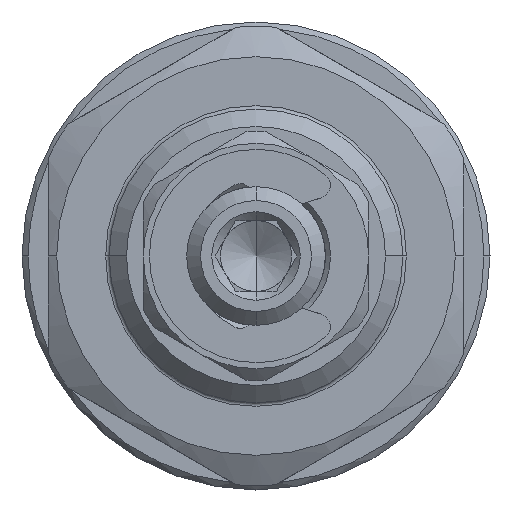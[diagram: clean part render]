
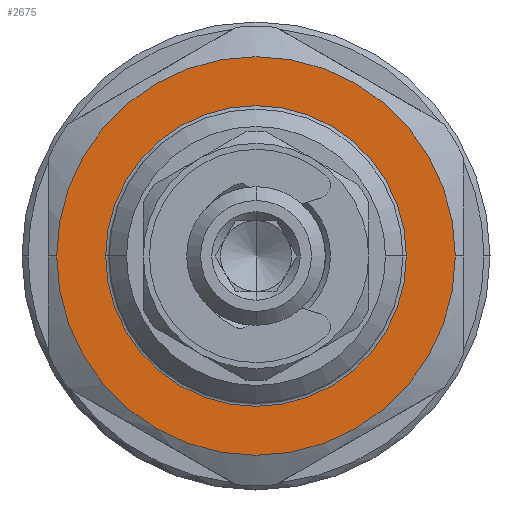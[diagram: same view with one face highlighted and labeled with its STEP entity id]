
A CAD part, left-side view. The second image highlights one B-rep face of the part: STEP entity #2675.
In plain terms, the highlighted planar face has unit normal (-1, 0, 0).
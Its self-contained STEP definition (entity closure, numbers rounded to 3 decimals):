
#511 = AXIS2_PLACEMENT_3D ( 'NONE', #7502, #5903, #5736 ) ;
#934 = CIRCLE ( 'NONE', #5878, 8.673 ) ;
#985 = VERTEX_POINT ( 'NONE', #6829 ) ;
#1182 = FACE_BOUND ( 'NONE', #7907, .T. ) ;
#2046 = CARTESIAN_POINT ( 'NONE',  ( 16.644, 3.943, 6.22 ) ) ;
#2276 = DIRECTION ( 'NONE',  ( -1., 0., 0. ) ) ;
#2415 = ORIENTED_EDGE ( 'NONE', *, *, #7709, .F. ) ;
#2675 = ADVANCED_FACE ( 'NONE', ( #6102, #1182 ), #10250, .T. ) ;
#2696 = VERTEX_POINT ( 'NONE', #5439 ) ;
#2731 = AXIS2_PLACEMENT_3D ( 'NONE', #2046, #3541, #9302 ) ;
#3088 = CARTESIAN_POINT ( 'NONE',  ( 16.644, -4.73, 6.22 ) ) ;
#3111 = EDGE_LOOP ( 'NONE', ( #7713, #9274 ) ) ;
#3208 = DIRECTION ( 'NONE',  ( -1., 0., 0. ) ) ;
#3294 = EDGE_CURVE ( 'NONE', #985, #2696, #3450, .T. ) ;
#3419 = CARTESIAN_POINT ( 'NONE',  ( 16.644, 3.943, 6.22 ) ) ;
#3450 = CIRCLE ( 'NONE', #8058, 11.5 ) ;
#3541 = DIRECTION ( 'NONE',  ( -1., 0., 0. ) ) ;
#3862 = CARTESIAN_POINT ( 'NONE',  ( 16.644, 3.943, 6.22 ) ) ;
#3910 = ORIENTED_EDGE ( 'NONE', *, *, #8840, .F. ) ;
#3961 = DIRECTION ( 'NONE',  ( 0., -1., 0. ) ) ;
#4487 = EDGE_CURVE ( 'NONE', #2696, #985, #8530, .T. ) ;
#5439 = CARTESIAN_POINT ( 'NONE',  ( 16.644, 15.443, 6.22 ) ) ;
#5592 = CARTESIAN_POINT ( 'NONE',  ( 16.644, 12.615, 6.22 ) ) ;
#5736 = DIRECTION ( 'NONE',  ( 0., -1., 0. ) ) ;
#5878 = AXIS2_PLACEMENT_3D ( 'NONE', #9020, #9121, #5970 ) ;
#5903 = DIRECTION ( 'NONE',  ( -1., 0., 0. ) ) ;
#5970 = DIRECTION ( 'NONE',  ( 0., -1., 0. ) ) ;
#6102 = FACE_OUTER_BOUND ( 'NONE', #3111, .T. ) ;
#6558 = VERTEX_POINT ( 'NONE', #5592 ) ;
#6574 = DIRECTION ( 'NONE',  ( 0., -1., 0. ) ) ;
#6829 = CARTESIAN_POINT ( 'NONE',  ( 16.644, -7.557, 6.22 ) ) ;
#7502 = CARTESIAN_POINT ( 'NONE',  ( 16.644, 3.943, 6.22 ) ) ;
#7709 = EDGE_CURVE ( 'NONE', #10121, #6558, #934, .T. ) ;
#7713 = ORIENTED_EDGE ( 'NONE', *, *, #4487, .T. ) ;
#7907 = EDGE_LOOP ( 'NONE', ( #2415, #3910 ) ) ;
#8058 = AXIS2_PLACEMENT_3D ( 'NONE', #3862, #2276, #3961 ) ;
#8530 = CIRCLE ( 'NONE', #511, 11.5 ) ;
#8840 = EDGE_CURVE ( 'NONE', #6558, #10121, #9835, .T. ) ;
#9020 = CARTESIAN_POINT ( 'NONE',  ( 16.644, 3.943, 6.22 ) ) ;
#9121 = DIRECTION ( 'NONE',  ( -1., 0., 0. ) ) ;
#9274 = ORIENTED_EDGE ( 'NONE', *, *, #3294, .T. ) ;
#9302 = DIRECTION ( 'NONE',  ( 0., -1., 0. ) ) ;
#9835 = CIRCLE ( 'NONE', #10514, 8.673 ) ;
#10121 = VERTEX_POINT ( 'NONE', #3088 ) ;
#10250 = PLANE ( 'NONE',  #2731 ) ;
#10514 = AXIS2_PLACEMENT_3D ( 'NONE', #3419, #3208, #6574 ) ;
